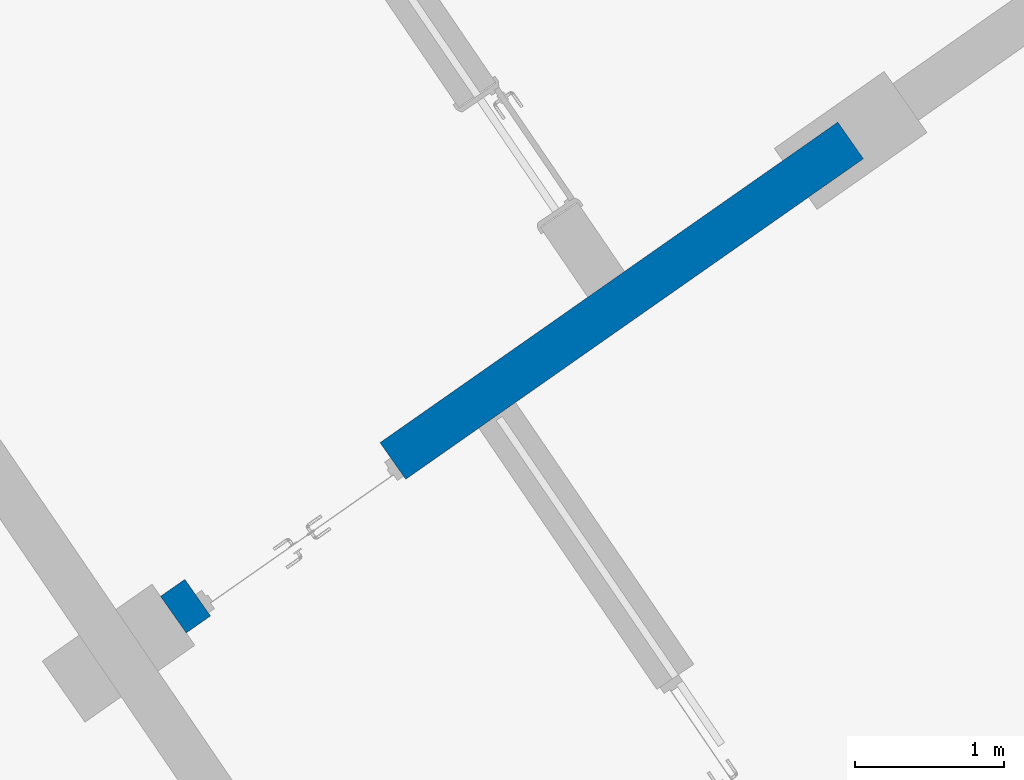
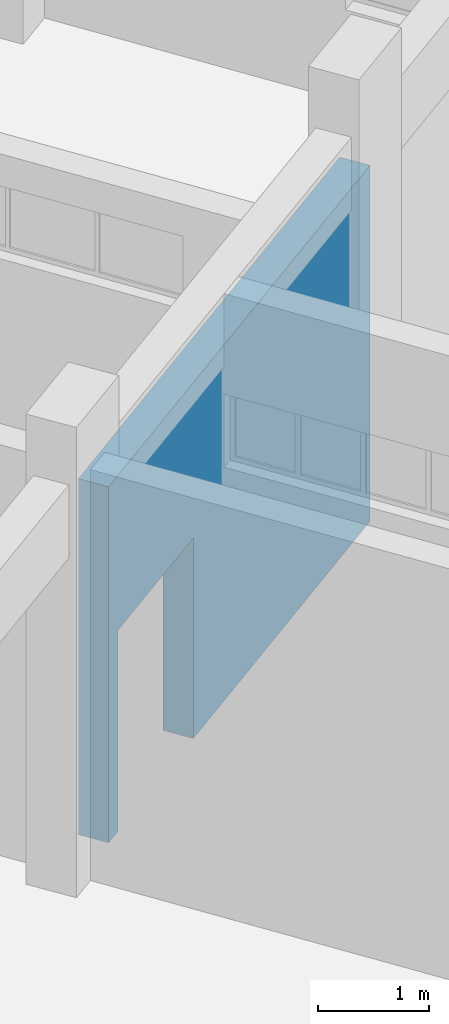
# One storey, part 83 of 157: 1 wall, 1 opening.
"""IFC2X3 building model written with IfcOpenShell, lengths in millimetres."""

from ifc_helpers import new_model, entity, si_unit, converted_unit, derived_unit, direction, frame, frame_2d, origin, place, context, subcontext, project, spatial, rectangle, extrude, material, layer, layer_set, layer_usage, type_object, element, save


model = new_model("IFC2X3")

# Units and contexts
model_context = context("Model", 3, precision=0.01, world=origin(), true_north=direction((6.123031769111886e-17, 1.0)))
body_context = subcontext(model_context, "Body", "Model", "MODEL_VIEW")
ifc_project = project(units=[si_unit("LENGTHUNIT", "METRE", prefix="MILLI"), si_unit("AREAUNIT", "SQUARE_METRE"), si_unit("VOLUMEUNIT", "CUBIC_METRE"), converted_unit("PLANEANGLEUNIT", "DEGREE", entity("IfcRatioMeasure", 0.017453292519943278), si_unit("PLANEANGLEUNIT", "RADIAN"), dimensions=[0, 0, 0, 0, 0, 0, 0]), si_unit("MASSUNIT", "GRAM", prefix="KILO"), derived_unit("MASSDENSITYUNIT", [(si_unit("MASSUNIT", "GRAM", prefix="KILO"), 1), (si_unit("LENGTHUNIT", "METRE"), -3)]), derived_unit("MOMENTOFINERTIAUNIT", [(si_unit("LENGTHUNIT", "METRE"), 4)]), si_unit("TIMEUNIT", "SECOND"), si_unit("FREQUENCYUNIT", "HERTZ"), si_unit("THERMODYNAMICTEMPERATUREUNIT", "DEGREE_CELSIUS"), derived_unit("THERMALTRANSMITTANCEUNIT", [(si_unit("MASSUNIT", "GRAM", prefix="KILO"), 1), (si_unit("THERMODYNAMICTEMPERATUREUNIT", "KELVIN"), -1), (si_unit("TIMEUNIT", "SECOND"), -3)]), derived_unit("THERMALCONDUCTANCEUNIT", [(si_unit("MASSUNIT", "GRAM", prefix="KILO"), 1), (si_unit("LENGTHUNIT", "METRE"), 1), (si_unit("THERMODYNAMICTEMPERATUREUNIT", "KELVIN"), -1), (si_unit("TIMEUNIT", "SECOND"), -3)]), derived_unit("VOLUMETRICFLOWRATEUNIT", [(si_unit("LENGTHUNIT", "METRE"), 3), (si_unit("TIMEUNIT", "SECOND"), -1)]), derived_unit("MASSFLOWRATEUNIT", [(si_unit("MASSUNIT", "GRAM", prefix="KILO"), 1), (si_unit("TIMEUNIT", "SECOND"), -1)]), derived_unit("ROTATIONALFREQUENCYUNIT", [(si_unit("TIMEUNIT", "SECOND"), -1)]), si_unit("ELECTRICCURRENTUNIT", "AMPERE"), si_unit("ELECTRICVOLTAGEUNIT", "VOLT"), si_unit("POWERUNIT", "WATT"), converted_unit("FORCEUNIT", "KIP", entity("IfcRatioMeasure", 2.088543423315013e-05), si_unit("FORCEUNIT", "NEWTON"), dimensions=[1, 1, -2, 0, 0, 0, 0]), si_unit("ILLUMINANCEUNIT", "LUX"), si_unit("LUMINOUSFLUXUNIT", "LUMEN"), si_unit("LUMINOUSINTENSITYUNIT", "CANDELA"), derived_unit("USERDEFINED", [(si_unit("MASSUNIT", "GRAM", prefix="KILO"), -1), (si_unit("LENGTHUNIT", "METRE"), -2), (si_unit("TIMEUNIT", "SECOND"), 3), (si_unit("LUMINOUSFLUXUNIT", "LUMEN"), 1)]), derived_unit("USERDEFINED", [(si_unit("MASSUNIT", "GRAM", prefix="KILO"), 1), (si_unit("LENGTHUNIT", "METRE"), 3), (si_unit("TIMEUNIT", "SECOND"), -3), (si_unit("ELECTRICCURRENTUNIT", "AMPERE"), -2)]), derived_unit("USERDEFINED", [(si_unit("LENGTHUNIT", "METRE"), 2), (si_unit("TIMEUNIT", "SECOND"), -2)]), derived_unit("SOUNDPOWERUNIT", [(si_unit("MASSUNIT", "GRAM", prefix="KILO"), 1), (si_unit("LENGTHUNIT", "METRE"), 2), (si_unit("TIMEUNIT", "SECOND"), -3)]), derived_unit("SOUNDPRESSUREUNIT", [(si_unit("MASSUNIT", "GRAM", prefix="KILO"), 1), (si_unit("LENGTHUNIT", "METRE"), -1), (si_unit("TIMEUNIT", "SECOND"), -2)]), derived_unit("LINEARVELOCITYUNIT", [(si_unit("LENGTHUNIT", "METRE"), 1), (si_unit("TIMEUNIT", "SECOND"), -1)]), si_unit("PRESSUREUNIT", "PASCAL"), derived_unit("USERDEFINED", [(si_unit("LENGTHUNIT", "METRE"), -2), (si_unit("MASSUNIT", "GRAM", prefix="KILO"), 1), (si_unit("TIMEUNIT", "SECOND"), -2)]), derived_unit("LINEARFORCEUNIT", [(si_unit("MASSUNIT", "GRAM", prefix="KILO"), 1), (si_unit("LENGTHUNIT", "METRE"), 1), (si_unit("TIMEUNIT", "SECOND"), -2), (si_unit("LENGTHUNIT", "METRE"), -1)]), derived_unit("PLANARFORCEUNIT", [(si_unit("MASSUNIT", "GRAM", prefix="KILO"), 1), (si_unit("LENGTHUNIT", "METRE"), 1), (si_unit("TIMEUNIT", "SECOND"), -2), (si_unit("LENGTHUNIT", "METRE"), -2)]), derived_unit("SPECIFICHEATCAPACITYUNIT", [(si_unit("LENGTHUNIT", "METRE"), 2), (si_unit("TIMEUNIT", "SECOND"), -2), (si_unit("THERMODYNAMICTEMPERATUREUNIT", "KELVIN"), -1)]), derived_unit("VAPORPERMEABILITYUNIT", [(si_unit("TIMEUNIT", "SECOND"), 1), (si_unit("LENGTHUNIT", "METRE"), -1)]), derived_unit("DYNAMICVISCOSITYUNIT", [(si_unit("MASSUNIT", "GRAM", prefix="KILO"), 1), (si_unit("LENGTHUNIT", "METRE"), -1), (si_unit("TIMEUNIT", "SECOND"), -1)]), derived_unit("THERMALEXPANSIONCOEFFICIENTUNIT", [(si_unit("THERMODYNAMICTEMPERATUREUNIT", "KELVIN"), -1)])], contexts=[model_context])

# Site, building, storey
site_placement = place(None, frame((0.0, 0.0, 0.0), z_axis=(0.0, 0.0, 1.0), x_axis=(0.8191520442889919, 0.5735764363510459, 0.0)))
site = spatial("IfcSite", under=ifc_project, at=site_placement, Name="Default", CompositionType="ELEMENT")
building_placement = place(site_placement, origin())
building = spatial("IfcBuilding", under=site, at=building_placement, CompositionType="ELEMENT")
storey_placement = place(building_placement, origin())
storey = spatial("IfcBuildingStorey", under=building, at=storey_placement, Name="1.EG +0.00", CompositionType="ELEMENT", Elevation=-4.331468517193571e-12)

# Wall, opening
ifc_material = material(Name="Analytical Wall Surface_CJC")
ifc_layer = layer(ifc_material, 300.0)
ifc_layer_set = layer_set([ifc_layer], Name="Basic Wall:Wand_Innen_30")
ifc_layer_usage = layer_usage(ifc_layer_set, "AXIS2", "NEGATIVE", 150.0)
wall_type = type_object("IfcWallType", Name="Basic Wall:Wand_Innen_30", PredefinedType="STANDARD", material=ifc_layer_set)
wall_placement = place(storey_placement, frame((-211308.03938017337, 85396.35891435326, 0.0), z_axis=(0.0, 0.0, 1.0), x_axis=(-1.0, 0.0, 0.0)))
wall = element("IfcWallStandardCase", 1, at=wall_placement, inside=storey, type_object=wall_type, material=ifc_layer_usage, Name="Basic Wall:Wand_Innen_30", ObjectType="Basic Wall:Wand_Innen_30", context=body_context, shape_type="SweptSolid", body=[
    extrude(rectangle(XDim=5550.492706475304, YDim=300.0000000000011, at=frame_2d((2775.246353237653, -1.7053025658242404e-13), x_axis=(1.0, 0.0))), origin(), (0.0, 0.0, 1.0), 3900.0000000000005),
])
opening_placement = place(wall_placement, frame((3751.4427064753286, -150.0, 0.0)))
element("IfcOpeningElement", 2, at=opening_placement, cuts=wall, Name="M_Door-Passage-Double-Flush:150x210:1", ObjectType="Opening", context=body_context, shape_type="SweptSolid", body=[
    extrude(rectangle(XDim=2200.0, YDim=1599.999999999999, at=frame_2d((1100.0, 799.9999999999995), x_axis=(1.0, 0.0))), frame((0.0, 0.0, 0.0), z_axis=(0.0, 1.0, 0.0), x_axis=(0.0, 0.0, 1.0)), (0.0, 0.0, 1.0), 300.0),
])

save(model, "model.ifc")
